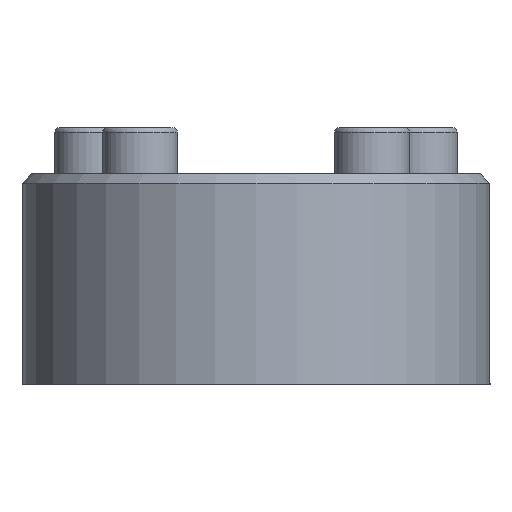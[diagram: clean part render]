
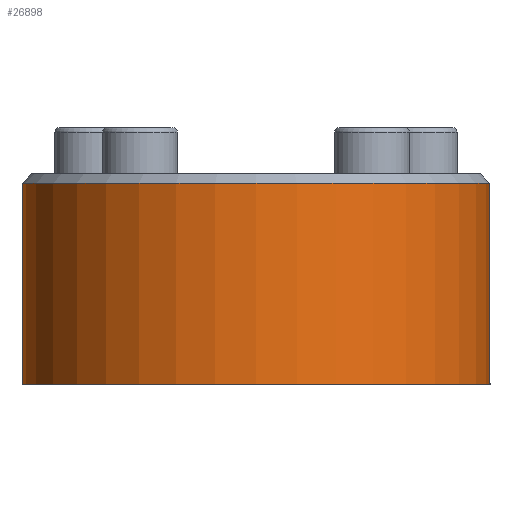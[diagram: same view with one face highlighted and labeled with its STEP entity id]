
A CAD part, front view. The second image highlights one B-rep face of the part: STEP entity #26898.
In plain terms, the highlighted cylindrical face has radius 50 mm (diameter 100 mm), a partial arc.
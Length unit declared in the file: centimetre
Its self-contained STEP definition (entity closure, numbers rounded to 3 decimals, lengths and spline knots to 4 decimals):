
#1638=CYLINDRICAL_SURFACE('',#28390,5.);
#3242=FACE_OUTER_BOUND('',#4819,.T.);
#4819=EDGE_LOOP('',(#19909,#19910,#19911,#19912));
#6101=LINE('',#34151,#8895);
#7001=LINE('',#38311,#9795);
#8895=VECTOR('',#29237,4.3);
#9795=VECTOR('',#30587,4.3);
#11744=CIRCLE('',#28387,5.);
#11745=CIRCLE('',#28391,5.);
#11757=VERTEX_POINT('',#34149);
#11758=VERTEX_POINT('',#34150);
#13064=VERTEX_POINT('',#38302);
#13065=VERTEX_POINT('',#38310);
#14321=EDGE_CURVE('',#11757,#11758,#6101,.T.);
#15730=EDGE_CURVE('',#11758,#13064,#11744,.T.);
#15733=EDGE_CURVE('',#13065,#13064,#7001,.T.);
#15734=EDGE_CURVE('',#13065,#11757,#11745,.T.);
#19909=ORIENTED_EDGE('',*,*,#15733,.T.);
#19910=ORIENTED_EDGE('',*,*,#15730,.F.);
#19911=ORIENTED_EDGE('',*,*,#14321,.F.);
#19912=ORIENTED_EDGE('',*,*,#15734,.F.);
#26898=ADVANCED_FACE('',(#3242),#1638,.T.);
#28387=AXIS2_PLACEMENT_3D('',#38304,#30577,#30578);
#28390=AXIS2_PLACEMENT_3D('',#38309,#30585,#30586);
#28391=AXIS2_PLACEMENT_3D('',#38312,#30588,#30589);
#29237=DIRECTION('',(0.,0.,1.));
#30577=DIRECTION('center_axis',(0.,0.,
1.));
#30578=DIRECTION('ref_axis',(-1.,0.,0.));
#30585=DIRECTION('center_axis',(0.,0.,
-1.));
#30586=DIRECTION('ref_axis',(-1.,0.,0.));
#30587=DIRECTION('',(0.,0.,1.));
#30588=DIRECTION('center_axis',(0.,0.,
-1.));
#30589=DIRECTION('ref_axis',(1.,0.,0.));
#34149=CARTESIAN_POINT('',(-5.,-19.5,-2.75));
#34150=CARTESIAN_POINT('',(-5.,-19.5,1.55));
#34151=CARTESIAN_POINT('',(-5.,-19.5,-2.75));
#38302=CARTESIAN_POINT('',(5.,-19.5,1.55));
#38304=CARTESIAN_POINT('Origin',(0.,-19.5,
1.55));
#38309=CARTESIAN_POINT('Origin',(0.,-19.5,
1.75));
#38310=CARTESIAN_POINT('',(5.,-19.5,-2.75));
#38311=CARTESIAN_POINT('',(5.,-19.5,-2.75));
#38312=CARTESIAN_POINT('Origin',(0.,-19.5,
-2.75));
